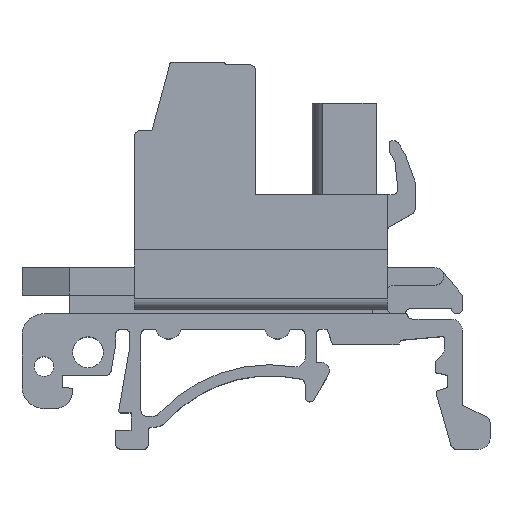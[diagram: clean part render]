
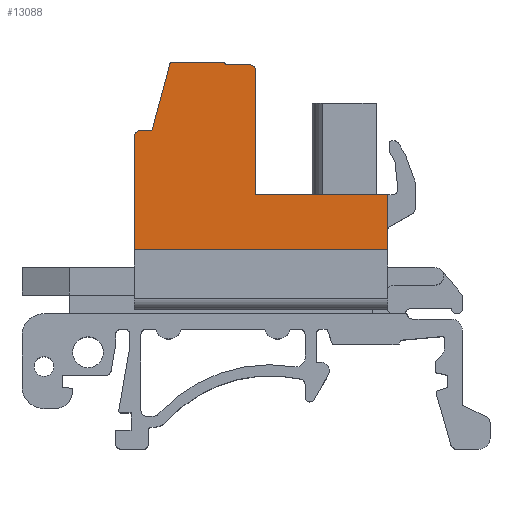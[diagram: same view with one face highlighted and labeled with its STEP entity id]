
A CAD part, top view. The second image highlights one B-rep face of the part: STEP entity #13088.
In plain terms, the highlighted planar face has unit normal (0, 0, 1).
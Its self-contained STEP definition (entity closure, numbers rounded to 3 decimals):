
#21=DIRECTION('',(-1.,0.,0.));
#22=VECTOR('',#21,12.);
#23=CARTESIAN_POINT('',(23.,5.,-19.982));
#24=LINE('',#23,#22);
#374=DIRECTION('',(0.,-1.,0.));
#375=VECTOR('',#374,10.3);
#376=CARTESIAN_POINT('',(0.,10.3,-19.982));
#377=LINE('',#376,#375);
#2586=DIRECTION('',(1.,0.,0.));
#2587=VECTOR('',#2586,23.);
#2588=CARTESIAN_POINT('',(0.,0.,-19.982));
#2589=LINE('',#2588,#2587);
#2610=DIRECTION('',(0.,-1.,0.));
#2611=VECTOR('',#2610,5.);
#2612=CARTESIAN_POINT('',(23.,5.,-19.982));
#2613=LINE('',#2612,#2611);
#2614=CARTESIAN_POINT('',(0.5,10.3,-19.982));
#2615=DIRECTION('',(0.,0.,-1.));
#2616=DIRECTION('',(-1.,0.,0.));
#2617=AXIS2_PLACEMENT_3D('',#2614,#2615,#2616);
#2619=DIRECTION('',(1.,0.,0.));
#2620=VECTOR('',#2619,1.1);
#2621=CARTESIAN_POINT('',(0.5,10.8,-19.982));
#2622=LINE('',#2621,#2620);
#2623=DIRECTION('',(0.259,0.966,0.));
#2624=VECTOR('',#2623,6.265);
#2625=CARTESIAN_POINT('',(1.6,10.8,-19.982));
#2626=LINE('',#2625,#2624);
#2627=CARTESIAN_POINT('',(3.415,16.8,-19.982));
#2628=DIRECTION('',(0.,0.,-1.));
#2629=DIRECTION('',(-0.966,0.259,0.));
#2630=AXIS2_PLACEMENT_3D('',#2627,#2628,#2629);
#2632=DIRECTION('',(1.,0.,0.));
#2633=VECTOR('',#2632,4.685);
#2634=CARTESIAN_POINT('',(3.415,17.,-19.982));
#2635=LINE('',#2634,#2633);
#2636=CARTESIAN_POINT('',(8.1,16.8,-19.982));
#2637=DIRECTION('',(0.,0.,-1.));
#2638=DIRECTION('',(0.,1.,0.));
#2639=AXIS2_PLACEMENT_3D('',#2636,#2637,#2638);
#2641=CARTESIAN_POINT('',(10.5,16.3,-19.982));
#2642=DIRECTION('',(0.,0.,-1.));
#2643=DIRECTION('',(0.,1.,0.));
#2644=AXIS2_PLACEMENT_3D('',#2641,#2642,#2643);
#2863=DIRECTION('',(-1.,0.,0.));
#2864=VECTOR('',#2863,2.2);
#2865=CARTESIAN_POINT('',(10.5,16.8,-19.982));
#2866=LINE('',#2865,#2864);
#2875=DIRECTION('',(0.,1.,0.));
#2876=VECTOR('',#2875,11.3);
#2877=CARTESIAN_POINT('',(11.,5.,-19.982));
#2878=LINE('',#2877,#2876);
#7628=CARTESIAN_POINT('',(23.,5.,-19.982));
#7629=VERTEX_POINT('',#7628);
#7630=CARTESIAN_POINT('',(11.,5.,-19.982));
#7631=VERTEX_POINT('',#7630);
#7758=CARTESIAN_POINT('',(23.,0.,-19.982));
#7759=VERTEX_POINT('',#7758);
#7826=CARTESIAN_POINT('',(0.,10.3,-19.982));
#7827=VERTEX_POINT('',#7826);
#7828=CARTESIAN_POINT('',(0.,0.,-19.982));
#7829=VERTEX_POINT('',#7828);
#8564=CARTESIAN_POINT('',(0.5,10.8,-19.982));
#8565=VERTEX_POINT('',#8564);
#8566=CARTESIAN_POINT('',(1.6,10.8,-19.982));
#8567=VERTEX_POINT('',#8566);
#8568=CARTESIAN_POINT('',(3.222,16.852,-19.982));
#8569=VERTEX_POINT('',#8568);
#8570=CARTESIAN_POINT('',(3.415,17.,-19.982));
#8571=VERTEX_POINT('',#8570);
#8572=CARTESIAN_POINT('',(8.1,17.,-19.982));
#8573=VERTEX_POINT('',#8572);
#8574=CARTESIAN_POINT('',(8.3,16.8,-19.982));
#8575=VERTEX_POINT('',#8574);
#8576=CARTESIAN_POINT('',(10.5,16.8,-19.982));
#8577=VERTEX_POINT('',#8576);
#8578=CARTESIAN_POINT('',(11.,16.3,-19.982));
#8579=VERTEX_POINT('',#8578);
#13059=CARTESIAN_POINT('',(11.497,17.,-19.982));
#13060=DIRECTION('',(0.,0.,-1.));
#13061=DIRECTION('',(-1.,0.,0.));
#13062=AXIS2_PLACEMENT_3D('',#13059,#13060,#13061);
#13063=PLANE('',#13062);
#13064=ORIENTED_EDGE('',*,*,#9804,.F.);
#13065=ORIENTED_EDGE('',*,*,#9947,.T.);
#13066=ORIENTED_EDGE('',*,*,#13046,.F.);
#13067=ORIENTED_EDGE('',*,*,#10068,.F.);
#13069=ORIENTED_EDGE('',*,*,#13068,.T.);
#13071=ORIENTED_EDGE('',*,*,#13070,.T.);
#13073=ORIENTED_EDGE('',*,*,#13072,.T.);
#13075=ORIENTED_EDGE('',*,*,#13074,.T.);
#13077=ORIENTED_EDGE('',*,*,#13076,.T.);
#13079=ORIENTED_EDGE('',*,*,#13078,.T.);
#13081=ORIENTED_EDGE('',*,*,#13080,.F.);
#13083=ORIENTED_EDGE('',*,*,#13082,.T.);
#13085=ORIENTED_EDGE('',*,*,#13084,.F.);
#13086=EDGE_LOOP('',(#13064,#13065,#13066,#13067,#13069,#13071,#13073,#13075,
#13077,#13079,#13081,#13083,#13085));
#13087=FACE_OUTER_BOUND('',#13086,.F.);
#13088=ADVANCED_FACE('',(#13087),#13063,.F.);
#2618=CIRCLE('',#2617,0.5);
#2631=CIRCLE('',#2630,0.2);
#2640=CIRCLE('',#2639,0.2);
#2645=CIRCLE('',#2644,0.5);
#9804=EDGE_CURVE('',#7629,#7631,#24,.T.);
#9947=EDGE_CURVE('',#7629,#7759,#2613,.T.);
#10068=EDGE_CURVE('',#7827,#7829,#377,.T.);
#13046=EDGE_CURVE('',#7829,#7759,#2589,.T.);
#13068=EDGE_CURVE('',#7827,#8565,#2618,.T.);
#13070=EDGE_CURVE('',#8565,#8567,#2622,.T.);
#13072=EDGE_CURVE('',#8567,#8569,#2626,.T.);
#13074=EDGE_CURVE('',#8569,#8571,#2631,.T.);
#13076=EDGE_CURVE('',#8571,#8573,#2635,.T.);
#13078=EDGE_CURVE('',#8573,#8575,#2640,.T.);
#13080=EDGE_CURVE('',#8577,#8575,#2866,.T.);
#13082=EDGE_CURVE('',#8577,#8579,#2645,.T.);
#13084=EDGE_CURVE('',#7631,#8579,#2878,.T.);
